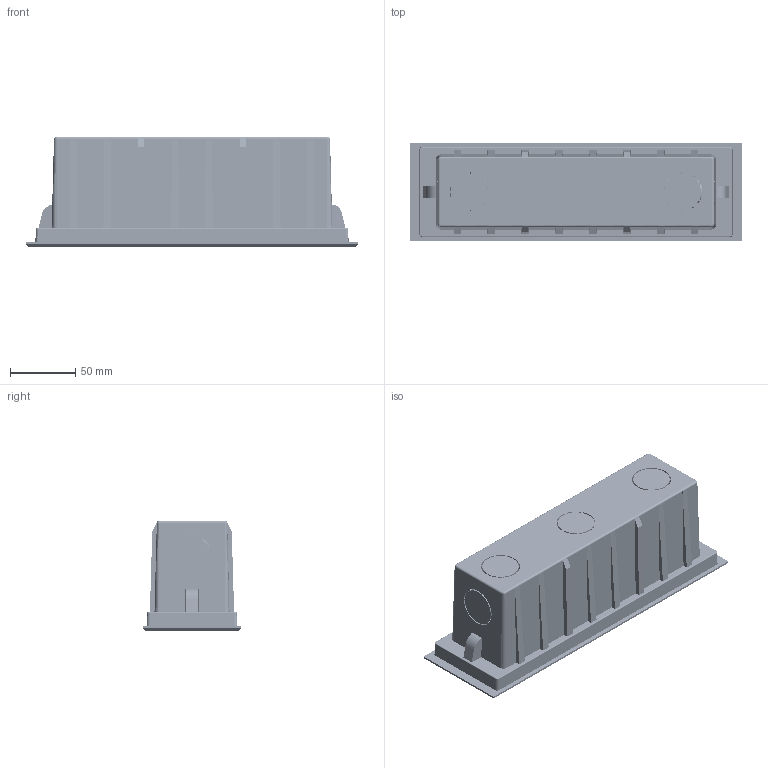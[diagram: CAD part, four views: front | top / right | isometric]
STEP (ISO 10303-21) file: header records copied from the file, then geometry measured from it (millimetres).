
FILE_DESCRIPTION((''),'2;1');
FILE_NAME('1BA_ASM','2016-01-26T',('Administrator'),(''),'CREO PARAMETRIC BY PTC INC, 2014190','CREO PARAMETRIC BY PTC INC, 2014190','');
FILE_SCHEMA(('CONFIG_CONTROL_DESIGN'));
Products named in the file (23): BODY; RUBBER; FACE-COVER-1BA; PC-1BA; SUPPORT-1; PAD; FANGUANGSAI-1; FANGSHUISAI; PG9_ASM; PCB-E; LED-55630-05W; PCB-EL_ASM; SCREW-M3-4; SCREW-M3; 2FL-A____; SCREW-M12_1; 2FL-A___-12297; 2FL-A_____; 2FL-A___-21900_ASM; SCREW-M3-6; YUMAITONG; CHAPIAN; 1BA_ASM
Assembly tree (53 placements, depth 3):
  1BA_ASM
    BODY
    RUBBER
    FACE-COVER-1BA
    PC-1BA
    SUPPORT-1
    PG9_ASM
      PAD
      FANGUANGSAI-1
      FANGSHUISAI
    PCB-EL_ASM
      PCB-E
      LED-55630-05W  x15
    SCREW-M3-4  x6
    SCREW-M3  x8
    2FL-A___-21900_ASM
      2FL-A____
      SCREW-M12_1  x2
      2FL-A___-12297
      2FL-A_____
      SCREW-M3  x2
    SCREW-M3-6  x2
    YUMAITONG
    CHAPIAN  x2
Bounding box: 255 x 76 x 84.5 mm (x, y, z)
Volume: 439859.6 mm3; surface area: 351680.8 mm2
Topology: 50 solids, 50 shells, 4410 faces, 10984 edges, 6810 vertices
Faces by surface type: plane 1969, cylinder 1302, bspline 530, cone 209, torus 179, extrusion 114, sphere 107
Entity records: 146018 total; most frequent: CARTESIAN_POINT 64187, ORIENTED_EDGE 17796, DIRECTION 15401, EDGE_CURVE 8898, VERTEX_POINT 5514, VECTOR 5159, AXIS2_PLACEMENT_3D 5121, LINE 5045
